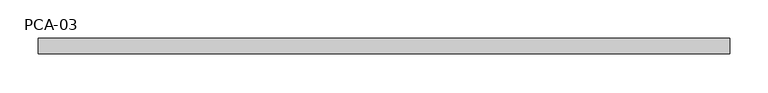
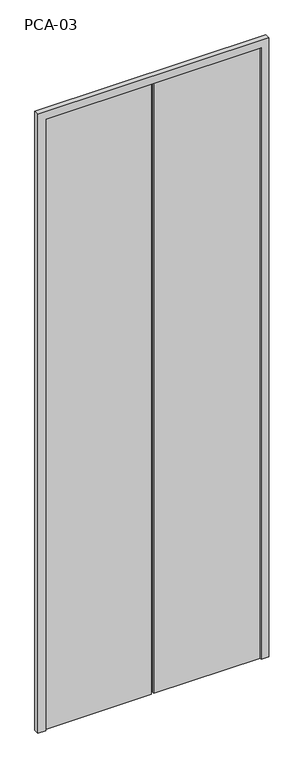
"""IFC4 building model written with IfcOpenShell, lengths in millimetres: furniture geometry, Puerta Closet abatible 2 hojas completas : PCA-03."""

from ifc_helpers import new_model, si_unit, frame, origin, origin_with_axes, place, context, project, spatial, polyline, outline, extrude, source, transform, mapped, element, save


def pca_03_46404f38(model_context):
    return source(origin(), model_context, "Body", "SweptSolid", [
        extrude(outline(polyline([(-845.0, 86.6666667), (-1260.0, 86.6666667), (-1260.0, 93.3333333), (-845.0, 93.3333333), (-845.0, 86.6666667)])), origin_with_axes(), (0.0, 0.0, 1.0), 2520.0),
        extrude(outline(polyline([(0.0, -1290.0), (0.0, -1260.0), (2520.0, -1260.0), (2520.0, -420.0), (0.0, -420.0), (0.0, -390.0), (2550.0, -390.0), (2550.0, -1290.0), (0.0, -1290.0)])), frame((0.0, 80.0, 0.0), z_axis=(0.0, 1.0, 0.0), x_axis=(0.0, 0.0, 1.0)), (0.0, 0.0, 1.0), 20.0),
        extrude(outline(polyline([(-420.0, 86.6666667), (-835.0, 86.6666667), (-835.0, 93.3333333), (-420.0, 93.3333333), (-420.0, 86.6666667)])), origin_with_axes(), (0.0, 0.0, 1.0), 2520.0),
    ])


if __name__ == "__main__":
    model = new_model("IFC4")
    model_context = context("Model", 3, world=origin())
    ifc_project = project(units=[si_unit("LENGTHUNIT", "METRE", prefix="MILLI")], contexts=[model_context])
    site = spatial("IfcSite", under=ifc_project)
    building = spatial("IfcBuilding", under=site)
    placement = place(None, origin())
    pca_03_shape = pca_03_46404f38(model_context)
    element("IfcFurniture", 1, ObjectType="Puerta Closet abatible 2 hojas completas : PCA-03", at=placement, inside=building, context=model_context, shape_type="MappedRepresentation", body=[
        mapped(pca_03_shape, transform((0.0, 0.0, 0.0), x_axis=(1.0, 0.0, 0.0), y_axis=(0.0, 1.0, 0.0), z_axis=(0.0, 0.0, 1.0))),
    ])
    save(model, "model.ifc")
